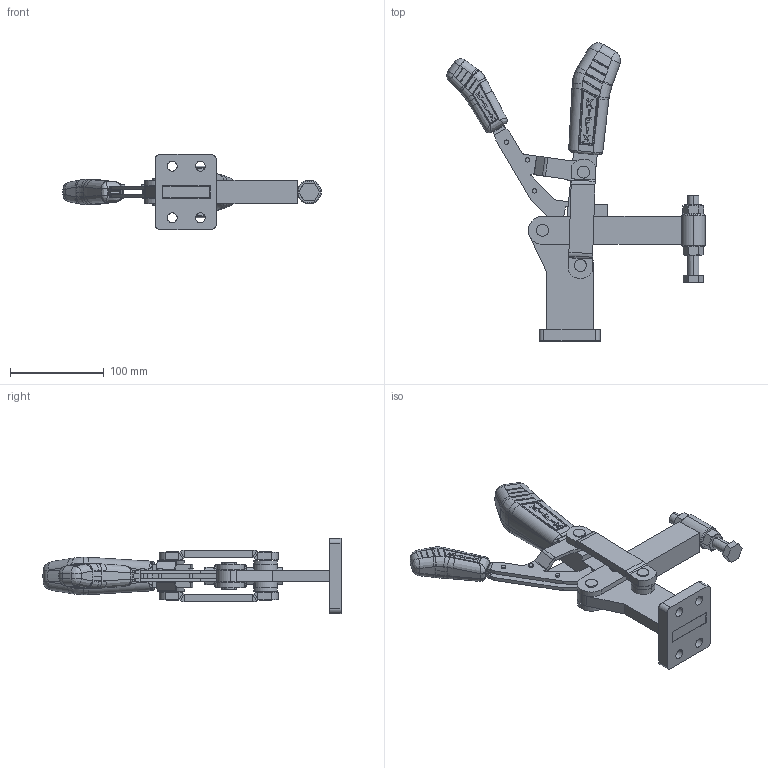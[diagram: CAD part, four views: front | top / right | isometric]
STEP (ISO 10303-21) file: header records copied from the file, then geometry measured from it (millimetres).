
FILE_DESCRIPTION (( 'STEP AP203' ), '1' );
FILE_NAME ('KF-066 TSTR.STEP', '2014-09-19T17:21:39', ( 'Ricardo' ), ( '' ), 'SwSTEP 2.0', 'SolidWorks 2013', '' );
FILE_SCHEMA (( 'CONFIG_CONTROL_DESIGN' ));
Length unit declared in the file: millimetre
Products named in the file (20): 03.20010; 07.60001; 17.50015; 01.20006; KF-066 TSTR; 06.50012; 08.10020; 02.11023; 16.20016; 20.20006; 16.20032; 12.50022; 05.20013; 11.50004; 18.10003_Direita; PSB-M12; 18.10003_Esquerda; 02.11025; 07.60203; 17.50003
Assembly tree (28 placements, depth 3):
  KF-066 TSTR
    02.11025
    03.20010
    01.20006
    08.10020  x2
    16.20016  x2
    16.20032  x2
    05.20013  x2
    18.10003_Direita
    18.10003_Esquerda
    17.50003  x2
    17.50015  x2
    06.50012  x3
    02.11023
    PSB-M12
      20.20006
      12.50022
      11.50004  x2
    07.60203
    07.60001
Bounding box: 275.48 x 317.74 x 80 mm (x, y, z)
Volume: 575355.2 mm3; surface area: 178415 mm2
Topology: 28 solids, 28 shells, 1355 faces, 3444 edges, 2177 vertices
Faces by surface type: plane 547, cylinder 446, bspline 317, cone 36, torus 9
Entity records: 48047 total; most frequent: CARTESIAN_POINT 18669, ORIENTED_EDGE 6464, DIRECTION 4444, EDGE_CURVE 3232, VERTEX_POINT 2053, VECTOR 1518, LINE 1518, AXIS2_PLACEMENT_3D 1463
